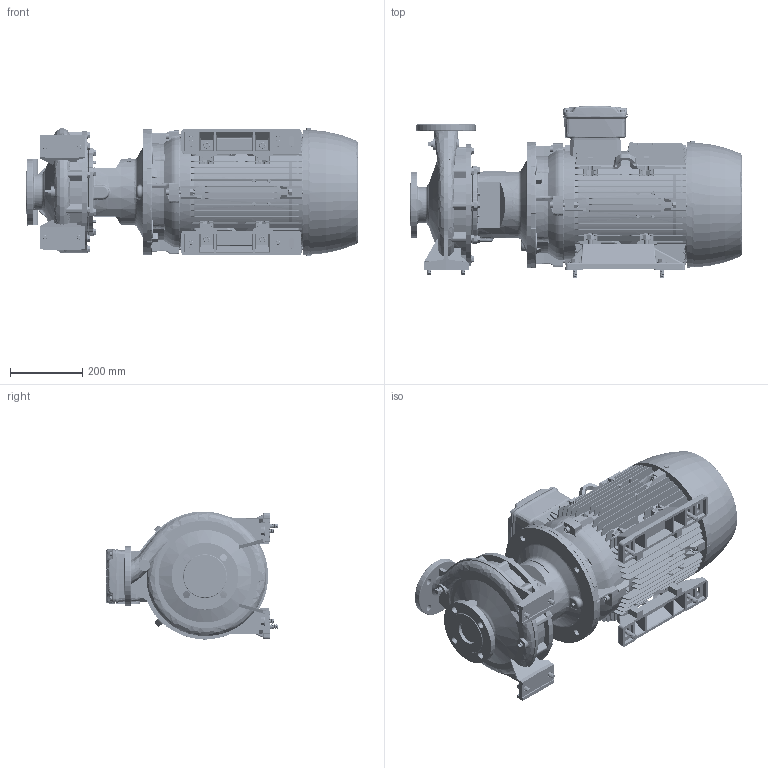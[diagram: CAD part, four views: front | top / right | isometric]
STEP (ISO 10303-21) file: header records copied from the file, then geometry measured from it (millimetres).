
FILE_DESCRIPTION (( 'STEP AP214' ), '1' );
FILE_NAME ('GSD2 50-250_22.0_(180ML)_W21.STEP', '2026-07-07T04:18:25', ( '' ), ( '' ), 'SwSTEP 2.0', 'SolidWorks 2024', '' );
FILE_SCHEMA (( 'AUTOMOTIVE_DESIGN' ));
Length unit declared in the file: millimetre
Products named in the file (8): Parametric bolt and washer_SFT-A299B; Parametric Flat Washer_M12; Parametric bolt and washer_SFT-A305B; 180M_L ALIE3_W21T_B35; 50-250-180M_L; GSD2  50-250_22.0_(180ML)_W21; Parametric bolt_SFT-A305B; Parametric bolt_SFT-A299B
Assembly tree (14 placements, depth 3):
  GSD2  50-250_22.0_(180ML)_W21
    50-250-180M_L
    Parametric bolt and washer_SFT-A299B  x4
      Parametric bolt_SFT-A299B
      Parametric Flat Washer_M12
    180M_L ALIE3_W21T_B35
    Parametric bolt and washer_SFT-A305B  x4
      Parametric bolt_SFT-A305B
      Parametric Flat Washer_M12
Bounding box: 919.8 x 477 x 357.35 mm (x, y, z)
Volume: 60283487.2 mm3; surface area: 3379481.7 mm2
Topology: 51 solids, 52 shells, 6522 faces, 16987 edges, 11038 vertices
Faces by surface type: plane 3888, cylinder 1227, cone 659, bspline 437, torus 295, sphere 16
Entity records: 225513 total; most frequent: CARTESIAN_POINT 80585, ORIENTED_EDGE 31934, DIRECTION 27002, EDGE_CURVE 15967, VERTEX_POINT 10387, VECTOR 9892, LINE 9892, AXIS2_PLACEMENT_3D 8555
